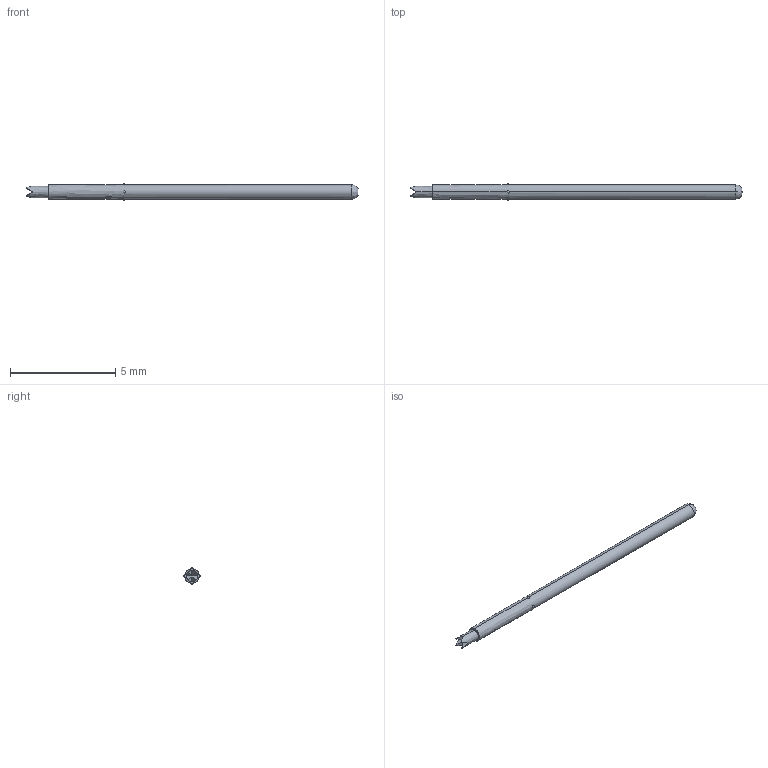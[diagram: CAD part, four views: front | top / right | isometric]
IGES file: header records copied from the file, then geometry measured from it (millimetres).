
Start section: SolidWorks IGES file using analytic representation for surfaces
Global section: file name: O:\PYLON\IGES FILES\P2662A\P2662A-1Q1S FULL.IGS; native system: SolidWorks 2015; preprocessor: SolidWorks 2015; author: kgolden; date: 171019.090454; units: inch
Bounding box: 15.76 x 0.79 x 0.79 mm (x, y, z)
Surface area: 36.4 mm2 (no closed solid volume)
Topology: 0 solids, 0 shells, 26 faces, 222 edges, 206 vertices
Faces by surface type: revolution 14, bspline 12
